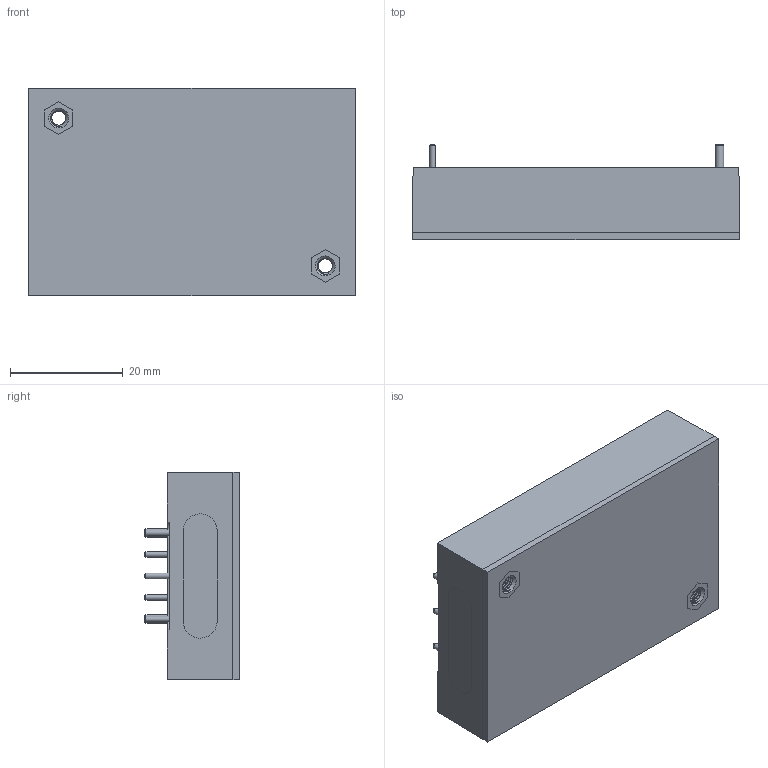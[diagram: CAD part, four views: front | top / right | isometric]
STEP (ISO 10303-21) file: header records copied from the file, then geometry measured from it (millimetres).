
FILE_DESCRIPTION (( 'STEP AP203' ), '1' );
FILE_NAME ('CQB100-110S 2023.05.23.STEP', '2023-05-23T00:54:15', ( '' ), ( '' ), 'SwSTEP 2.0', 'SolidWorks 2020', '' );
FILE_SCHEMA (( 'CONFIG_CONTROL_DESIGN' ));
Length unit declared in the file: millimetre
Products named in the file (1): CQB100-110S 2023.05.23
Bounding box: 57.9 x 16.9 x 36.8 mm (x, y, z)
Volume: 26877.1 mm3; surface area: 11743.6 mm2
Topology: 2 solids, 2 shells, 492 faces, 1271 edges, 850 vertices
Faces by surface type: plane 321, bspline 127, cylinder 22, cone 22
Full cylindrical faces by diameter (mm): 1.02 x6, 1.5 x2, 3.76 x2, 4.2 x5
Entity records: 26005 total; most frequent: CARTESIAN_POINT 14982, ORIENTED_EDGE 2430, DIRECTION 1758, EDGE_CURVE 1215, VECTOR 860, LINE 860, VERTEX_POINT 831, EDGE_LOOP 606
